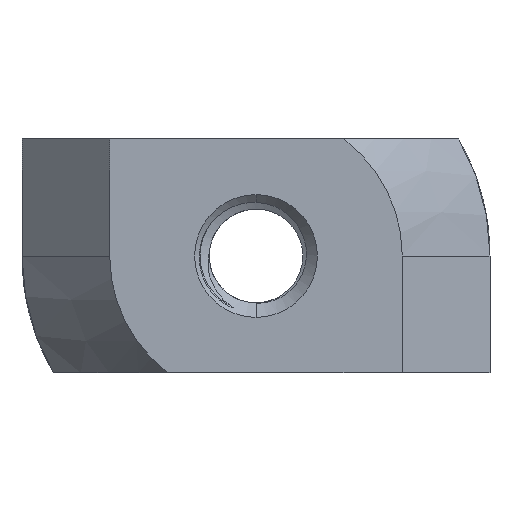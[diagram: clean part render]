
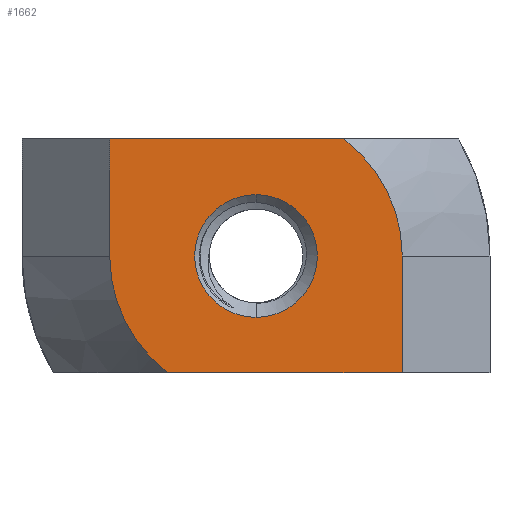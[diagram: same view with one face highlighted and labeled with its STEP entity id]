
A CAD part, front view. The second image highlights one B-rep face of the part: STEP entity #1662.
In plain terms, the highlighted planar face has unit normal (0, -1, 0).
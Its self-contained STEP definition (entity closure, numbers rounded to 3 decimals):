
#233 = EDGE_CURVE ( 'NONE', #2022, #1946, #3801, .T. ) ;
#277 = AXIS2_PLACEMENT_3D ( 'NONE', #1558, #3201, #3773 ) ;
#281 = VECTOR ( 'NONE', #817, 1000. ) ;
#342 = CARTESIAN_POINT ( 'NONE',  ( -5., 0., 4. ) ) ;
#373 = DIRECTION ( 'NONE',  ( 1., 0., 0. ) ) ;
#384 = EDGE_CURVE ( 'NONE', #2438, #2022, #623, .T. ) ;
#440 = FACE_OUTER_BOUND ( 'NONE', #3636, .T. ) ;
#479 = CIRCLE ( 'NONE', #1923, 2.1 ) ;
#485 = CARTESIAN_POINT ( 'NONE',  ( 0., 0., 0. ) ) ;
#519 = VECTOR ( 'NONE', #1521, 1000. ) ;
#559 = CARTESIAN_POINT ( 'NONE',  ( -5., 0., 0. ) ) ;
#560 = ORIENTED_EDGE ( 'NONE', *, *, #2657, .T. ) ;
#613 = CARTESIAN_POINT ( 'NONE',  ( 0., 0., 0. ) ) ;
#623 = LINE ( 'NONE', #2569, #2310 ) ;
#631 = CARTESIAN_POINT ( 'NONE',  ( 5., 0., -4. ) ) ;
#732 = LINE ( 'NONE', #3339, #281 ) ;
#779 = DIRECTION ( 'NONE',  ( 0., 0., 1. ) ) ;
#817 = DIRECTION ( 'NONE',  ( -1., 0., 0. ) ) ;
#936 = CARTESIAN_POINT ( 'NONE',  ( 0., 0., 2.1 ) ) ;
#971 = ORIENTED_EDGE ( 'NONE', *, *, #384, .T. ) ;
#980 = DIRECTION ( 'NONE',  ( 0., -1., 0. ) ) ;
#1075 = EDGE_CURVE ( 'NONE', #1992, #3264, #2105, .T. ) ;
#1086 = DIRECTION ( 'NONE',  ( 0., -1., 0. ) ) ;
#1171 = CARTESIAN_POINT ( 'NONE',  ( 0., 0., 0. ) ) ;
#1189 = AXIS2_PLACEMENT_3D ( 'NONE', #613, #980, #2244 ) ;
#1193 = ORIENTED_EDGE ( 'NONE', *, *, #3743, .F. ) ;
#1245 = LINE ( 'NONE', #559, #519 ) ;
#1308 = VERTEX_POINT ( 'NONE', #2964 ) ;
#1431 = AXIS2_PLACEMENT_3D ( 'NONE', #2980, #1086, #779 ) ;
#1521 = DIRECTION ( 'NONE',  ( 0., 0., -1. ) ) ;
#1523 = ORIENTED_EDGE ( 'NONE', *, *, #233, .T. ) ;
#1558 = CARTESIAN_POINT ( 'NONE',  ( 0., 0., 0. ) ) ;
#1662 = ADVANCED_FACE ( 'NONE', ( #2024, #440 ), #3019, .F. ) ;
#1768 = DIRECTION ( 'NONE',  ( 0., 1., 0. ) ) ;
#1806 = EDGE_CURVE ( 'NONE', #3264, #1992, #479, .T. ) ;
#1923 = AXIS2_PLACEMENT_3D ( 'NONE', #1171, #3170, #3718 ) ;
#1930 = CIRCLE ( 'NONE', #1189, 5. ) ;
#1946 = VERTEX_POINT ( 'NONE', #3640 ) ;
#1992 = VERTEX_POINT ( 'NONE', #3557 ) ;
#2022 = VERTEX_POINT ( 'NONE', #3244 ) ;
#2024 = FACE_BOUND ( 'NONE', #2884, .T. ) ;
#2046 = CARTESIAN_POINT ( 'NONE',  ( -3., 0., -4. ) ) ;
#2105 = CIRCLE ( 'NONE', #277, 2.1 ) ;
#2244 = DIRECTION ( 'NONE',  ( 0., 0., 1. ) ) ;
#2310 = VECTOR ( 'NONE', #3864, 1000. ) ;
#2325 = EDGE_CURVE ( 'NONE', #2753, #1308, #1245, .T. ) ;
#2438 = VERTEX_POINT ( 'NONE', #631 ) ;
#2482 = ORIENTED_EDGE ( 'NONE', *, *, #2325, .T. ) ;
#2506 = EDGE_CURVE ( 'NONE', #2753, #1946, #2932, .T. ) ;
#2569 = CARTESIAN_POINT ( 'NONE',  ( 5., 0., 0. ) ) ;
#2590 = ORIENTED_EDGE ( 'NONE', *, *, #1806, .T. ) ;
#2657 = EDGE_CURVE ( 'NONE', #1308, #3734, #1930, .T. ) ;
#2696 = ORIENTED_EDGE ( 'NONE', *, *, #2506, .F. ) ;
#2753 = VERTEX_POINT ( 'NONE', #342 ) ;
#2884 = EDGE_LOOP ( 'NONE', ( #3790, #2590 ) ) ;
#2932 = LINE ( 'NONE', #3624, #3004 ) ;
#2964 = CARTESIAN_POINT ( 'NONE',  ( -5., 0., 0. ) ) ;
#2980 = CARTESIAN_POINT ( 'NONE',  ( 0., 0., 0. ) ) ;
#3004 = VECTOR ( 'NONE', #373, 1000. ) ;
#3019 = PLANE ( 'NONE',  #3785 ) ;
#3170 = DIRECTION ( 'NONE',  ( 0., 1., 0. ) ) ;
#3201 = DIRECTION ( 'NONE',  ( 0., 1., 0. ) ) ;
#3244 = CARTESIAN_POINT ( 'NONE',  ( 5., 0., 0. ) ) ;
#3264 = VERTEX_POINT ( 'NONE', #936 ) ;
#3339 = CARTESIAN_POINT ( 'NONE',  ( -6.928, 0., -4. ) ) ;
#3557 = CARTESIAN_POINT ( 'NONE',  ( 0., 0., -2.1 ) ) ;
#3624 = CARTESIAN_POINT ( 'NONE',  ( -8., 0., 4. ) ) ;
#3636 = EDGE_LOOP ( 'NONE', ( #2482, #560, #1193, #971, #1523, #2696 ) ) ;
#3640 = CARTESIAN_POINT ( 'NONE',  ( 3., 0., 4. ) ) ;
#3695 = DIRECTION ( 'NONE',  ( 0., 0., 1. ) ) ;
#3718 = DIRECTION ( 'NONE',  ( 0., 0., 1. ) ) ;
#3734 = VERTEX_POINT ( 'NONE', #2046 ) ;
#3743 = EDGE_CURVE ( 'NONE', #2438, #3734, #732, .T. ) ;
#3773 = DIRECTION ( 'NONE',  ( 0., 0., 1. ) ) ;
#3785 = AXIS2_PLACEMENT_3D ( 'NONE', #485, #1768, #3695 ) ;
#3790 = ORIENTED_EDGE ( 'NONE', *, *, #1075, .T. ) ;
#3801 = CIRCLE ( 'NONE', #1431, 5. ) ;
#3864 = DIRECTION ( 'NONE',  ( 0., 0., 1. ) ) ;
